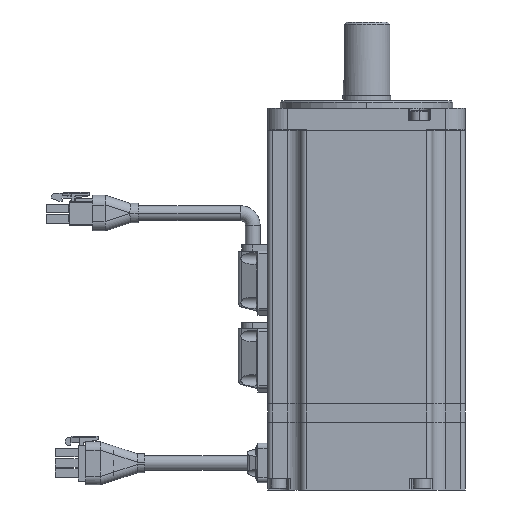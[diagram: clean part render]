
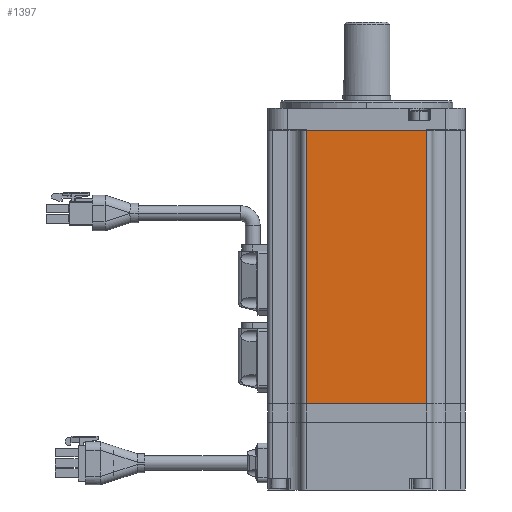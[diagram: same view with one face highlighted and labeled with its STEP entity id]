
A CAD part, left-side view. The second image highlights one B-rep face of the part: STEP entity #1397.
In plain terms, the highlighted planar face has unit normal (-1, 0, 0).
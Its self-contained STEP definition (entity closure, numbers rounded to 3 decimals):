
#211=DIRECTION('',(0.,0.,-1.));
#212=VECTOR('',#211,111.);
#213=CARTESIAN_POINT('',(-40.1,-24.5,111.));
#214=LINE('',#213,#212);
#219=DIRECTION('',(0.,1.,0.));
#220=VECTOR('',#219,49.);
#221=CARTESIAN_POINT('',(-40.1,-24.5,0.));
#222=LINE('',#221,#220);
#223=DIRECTION('',(0.,-1.,0.));
#224=VECTOR('',#223,49.);
#225=CARTESIAN_POINT('',(-40.1,24.5,111.));
#226=LINE('',#225,#224);
#227=DIRECTION('',(0.,0.,1.));
#228=VECTOR('',#227,111.);
#229=CARTESIAN_POINT('',(-40.1,24.5,0.));
#230=LINE('',#229,#228);
#1098=CARTESIAN_POINT('',(-40.1,24.5,111.));
#1099=VERTEX_POINT('',#1098);
#1100=CARTESIAN_POINT('',(-40.1,-24.5,111.));
#1101=VERTEX_POINT('',#1100);
#1142=CARTESIAN_POINT('',(-40.1,-24.5,0.));
#1144=VERTEX_POINT('',#1142);
#1146=CARTESIAN_POINT('',(-40.1,24.5,0.));
#1147=VERTEX_POINT('',#1146);
#1384=CARTESIAN_POINT('',(-40.1,0.,55.5));
#1385=DIRECTION('',(1.,0.,0.));
#1386=DIRECTION('',(0.,1.,0.));
#1387=AXIS2_PLACEMENT_3D('',#1384,#1385,#1386);
#1388=PLANE('',#1387);
#1389=ORIENTED_EDGE('',*,*,#1375,.T.);
#1390=ORIENTED_EDGE('',*,*,#1334,.T.);
#1392=ORIENTED_EDGE('',*,*,#1391,.T.);
#1394=ORIENTED_EDGE('',*,*,#1393,.T.);
#1395=EDGE_LOOP('',(#1389,#1390,#1392,#1394));
#1396=FACE_OUTER_BOUND('',#1395,.F.);
#1397=ADVANCED_FACE('',(#1396),#1388,.F.);
#1334=EDGE_CURVE('',#1144,#1147,#222,.T.);
#1375=EDGE_CURVE('',#1101,#1144,#214,.T.);
#1391=EDGE_CURVE('',#1147,#1099,#230,.T.);
#1393=EDGE_CURVE('',#1099,#1101,#226,.T.);
